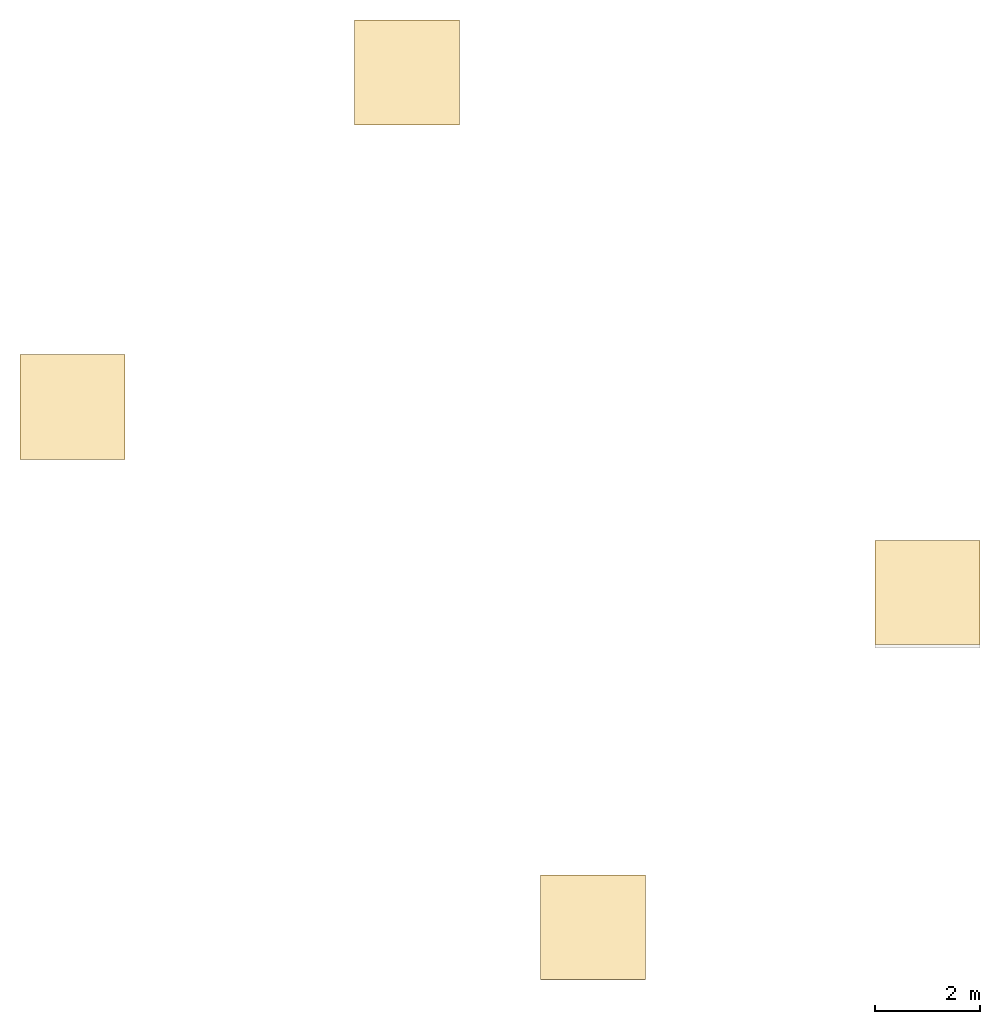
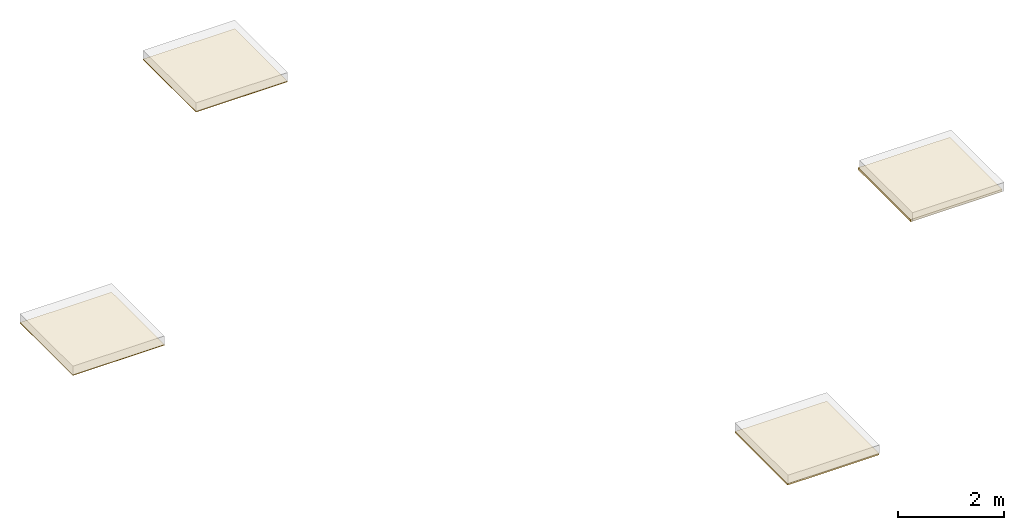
# One storey, part 2 of 2: 4 coverings.
"""IFC2X3 building model written with IfcOpenShell, lengths in millimetres."""

from ifc_helpers import new_model, entity, si_unit, converted_unit, derived_unit, direction, frame, frame_2d, origin, origin_2d_with_axis, place, context, subcontext, project, spatial, rectangle, extrude, material, layer, layer_set, layer_usage, element, save


model = new_model("IFC2X3")

# Units and contexts
model_context = context("Model", 3, precision=0.01, world=origin(), true_north=direction((6.12303176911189e-17, 1.0)))
context_of_model = context(None, 3, precision=0.01, world=origin(), true_north=direction((6.12303176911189e-17, 1.0)))
body_context = subcontext(model_context, "Body", "Model", "MODEL_VIEW")
ifc_project = project(units=[si_unit("LENGTHUNIT", "METRE", prefix="MILLI"), si_unit("AREAUNIT", "SQUARE_METRE"), si_unit("VOLUMEUNIT", "CUBIC_METRE"), converted_unit("PLANEANGLEUNIT", "DEGREE", entity("IfcRatioMeasure", 0.0174532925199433), si_unit("PLANEANGLEUNIT", "RADIAN"), dimensions=[0, 0, 0, 0, 0, 0, 0]), si_unit("MASSUNIT", "GRAM", prefix="KILO"), si_unit("TIMEUNIT", "SECOND"), si_unit("FREQUENCYUNIT", "HERTZ"), si_unit("THERMODYNAMICTEMPERATUREUNIT", "DEGREE_CELSIUS"), derived_unit("THERMALTRANSMITTANCEUNIT", [(si_unit("MASSUNIT", "GRAM", prefix="KILO"), 1), (si_unit("THERMODYNAMICTEMPERATUREUNIT", "KELVIN"), -1), (si_unit("TIMEUNIT", "SECOND"), -3)]), derived_unit("VOLUMETRICFLOWRATEUNIT", [(si_unit("LENGTHUNIT", "METRE"), 3), (si_unit("TIMEUNIT", "SECOND"), -1)]), si_unit("ELECTRICCURRENTUNIT", "AMPERE"), si_unit("ELECTRICVOLTAGEUNIT", "VOLT"), si_unit("POWERUNIT", "WATT"), si_unit("FORCEUNIT", "NEWTON", prefix="KILO"), si_unit("ILLUMINANCEUNIT", "LUX"), si_unit("LUMINOUSFLUXUNIT", "LUMEN"), si_unit("LUMINOUSINTENSITYUNIT", "CANDELA"), derived_unit("USERDEFINED", [(si_unit("MASSUNIT", "GRAM", prefix="KILO"), -1), (si_unit("LENGTHUNIT", "METRE"), -2), (si_unit("TIMEUNIT", "SECOND"), 3), (si_unit("LUMINOUSFLUXUNIT", "LUMEN"), 1)]), derived_unit("LINEARVELOCITYUNIT", [(si_unit("LENGTHUNIT", "METRE"), 1), (si_unit("TIMEUNIT", "SECOND"), -1)]), si_unit("PRESSUREUNIT", "PASCAL"), derived_unit("USERDEFINED", [(si_unit("LENGTHUNIT", "METRE"), -2), (si_unit("MASSUNIT", "GRAM", prefix="KILO"), 1), (si_unit("TIMEUNIT", "SECOND"), -2)])], contexts=[model_context, context_of_model])

# Site, building, storey
site_placement = place(None, origin())
site = spatial("IfcSite", under=ifc_project, at=site_placement, Name="Default", CompositionType="ELEMENT")
building_placement = place(site_placement, origin())
building = spatial("IfcBuilding", under=site, at=building_placement, CompositionType="ELEMENT")
storey_placement = place(building_placement, frame((0.0, 0.0, 1800.0)))
storey = spatial("IfcBuildingStorey", under=building, at=storey_placement, Name="01 eerste verdieping", CompositionType="ELEMENT", Elevation=1800.0)

# Coverings
ifc_material = material(Name="Heraklith® | Basis - Houtwollaag - 2000x600mm")
ifc_layer_1 = layer(ifc_material, 15.0)
ifc_layer_set_1 = layer_set([ifc_layer_1], Name="Compound Ceiling:NLRS_45_CEI_Heraklith - Basis 15x2000x600mm")
ifc_layer_usage_1 = layer_usage(ifc_layer_set_1, "AXIS3", "NEGATIVE", 0.0)
covering_1_placement = place(storey_placement, frame((0.0, 2515.0, -15.0)))
element("IfcCovering", 1, at=covering_1_placement, inside=storey, material=ifc_layer_usage_1, Name="Compound Ceiling:NLRS_45_CEI_Heraklith - Basis 15x2000x600mm", ObjectType="Compound Ceiling:NLRS_45_CEI_Heraklith - Basis 15x2000x600mm", PredefinedType="CEILING", context=body_context, shape_type="SweptSolid", body=[
    extrude(rectangle(XDim=2000.0, YDim=2000.0, at=frame_2d((2.8421709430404e-13, -2.8421709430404e-13), x_axis=(1.0, 0.0))), frame((1000.0, 1000.0, 0.0), z_axis=(0.0, 0.0, 1.0), x_axis=(-1.0, 0.0, 0.0)), (0.0, 0.0, 1.0), 15.0000000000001),
])
ifc_layer_2 = layer(ifc_material, 20.0)
ifc_layer_set_2 = layer_set([ifc_layer_2], Name="Compound Ceiling:NLRS_45_CEI_Heraklith - Basis 25x2000x600mm")
ifc_layer_usage_2 = layer_usage(ifc_layer_set_2, "AXIS3", "NEGATIVE", 0.0)
covering_2_placement = place(storey_placement, frame((6363.9610306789, 8883.96103067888, -25.0)))
element("IfcCovering", 2, at=covering_2_placement, inside=storey, material=ifc_layer_usage_2, Name="Compound Ceiling:NLRS_45_CEI_Heraklith - Basis 25x2000x600mm", ObjectType="Compound Ceiling:NLRS_45_CEI_Heraklith - Basis 25x2000x600mm", PredefinedType="CEILING", context=body_context, shape_type="SweptSolid", body=[
    extrude(rectangle(XDim=2000.0, YDim=1995.0, at=frame_2d((-1.08002495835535e-12, 1.08002495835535e-12), x_axis=(1.0, 0.0))), frame((1000.0, 997.500000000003, 0.0), z_axis=(0.0, 0.0, 1.0), x_axis=(-1.0, 0.0, 0.0)), (0.0, 0.0, 1.0), 20.0000000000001),
])
ifc_layer_3 = layer(ifc_material, 35.0)
ifc_layer_set_3 = layer_set([ifc_layer_3], Name="Compound Ceiling:NLRS_45_CEI_Heraklith - Basis 35x2000x600mm")
ifc_layer_usage_3 = layer_usage(ifc_layer_set_3, "AXIS3", "NEGATIVE", 0.0)
covering_3_placement = place(storey_placement, frame((9899.49493661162, -7374.49493661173, -15.0)))
element("IfcCovering", 3, at=covering_3_placement, inside=storey, material=ifc_layer_usage_3, Name="Compound Ceiling:NLRS_45_CEI_Heraklith - Basis 35x2000x600mm", ObjectType="Compound Ceiling:NLRS_45_CEI_Heraklith - Basis 35x2000x600mm", PredefinedType="CEILING", context=body_context, shape_type="SweptSolid", body=[
    extrude(rectangle(XDim=2000.0, YDim=1990.0, at=origin_2d_with_axis()), frame((1000.0, 995.0, 0.0), z_axis=(0.0, 0.0, 1.0), x_axis=(-1.0, 0.0, 0.0)), (0.0, 0.0, 1.0), 34.9999999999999),
])
ifc_layer_4 = layer(ifc_material, 50.0)
ifc_layer_set_4 = layer_set([ifc_layer_4], Name="Compound Ceiling:NLRS_45_CEI_Heraklith - Basis 50x2000x600mm")
ifc_layer_usage_4 = layer_usage(ifc_layer_set_4, "AXIS3", "NEGATIVE", 0.0)
covering_4_placement = place(storey_placement, frame((16263.4559672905, -1003.03390593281, -25.0)))
element("IfcCovering", 4, at=covering_4_placement, inside=storey, material=ifc_layer_usage_4, Name="Compound Ceiling:NLRS_45_CEI_Heraklith - Basis 50x2000x600mm", ObjectType="Compound Ceiling:NLRS_45_CEI_Heraklith - Basis 50x2000x600mm", PredefinedType="CEILING", context=body_context, shape_type="SweptSolid", body=[
    extrude(rectangle(XDim=2000.0, YDim=1982.50000000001, at=frame_2d((0.0, 5.6843418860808e-14), x_axis=(1.0, 0.0))), frame((1000.0, 991.250000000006, 0.0), z_axis=(0.0, 0.0, 1.0), x_axis=(-1.0, 0.0, 0.0)), (0.0, 0.0, 1.0), 50.0),
])

save(model, "model.ifc")
